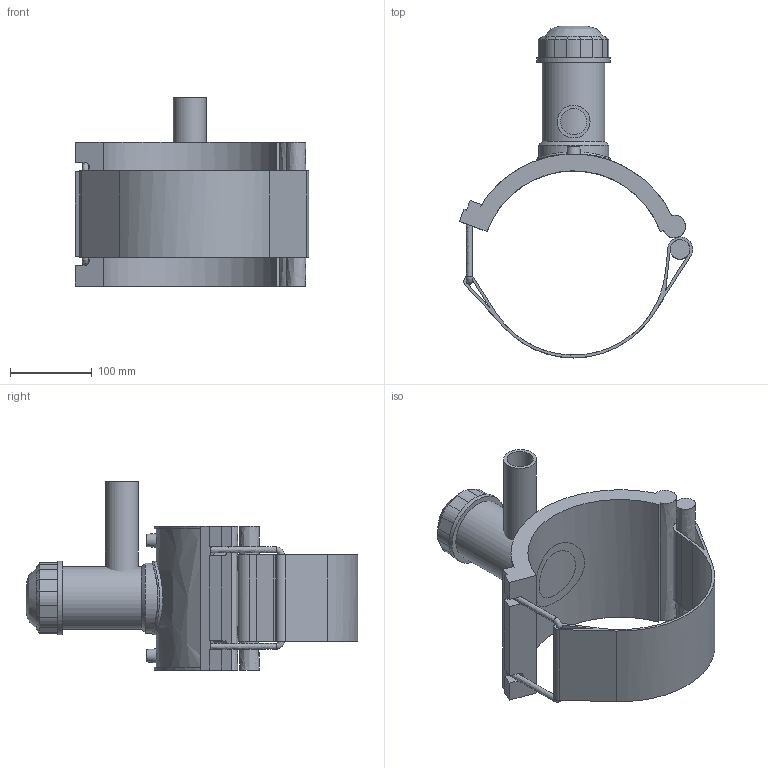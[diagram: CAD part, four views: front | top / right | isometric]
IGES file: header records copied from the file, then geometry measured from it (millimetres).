
Global section: file name: 4963P4225040; native system: Autodesk Inventor 2019; preprocessor: unknown; author: KIM; date: 20220317.113230; units: millimetre
Bounding box: 284.83 x 405.37 x 230 mm (x, y, z)
Volume: 1946738.7 mm3; surface area: 387720.9 mm2
Topology: 3 solids, 3 shells, 118 faces, 303 edges, 197 vertices
Faces by surface type: bspline 118
